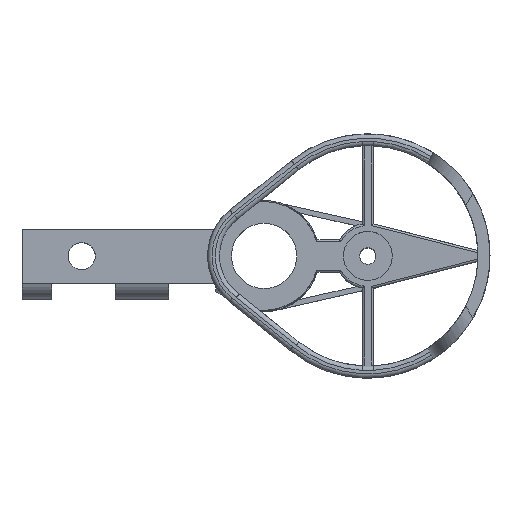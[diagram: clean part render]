
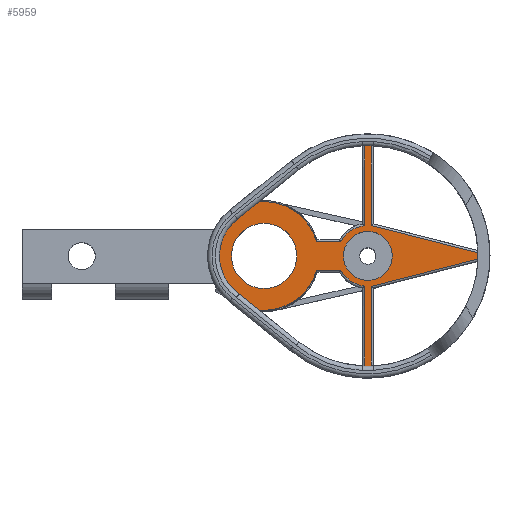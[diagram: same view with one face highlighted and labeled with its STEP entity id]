
A CAD part, top view. The second image highlights one B-rep face of the part: STEP entity #5959.
In plain terms, the highlighted planar face has unit normal (0, 0, 1).
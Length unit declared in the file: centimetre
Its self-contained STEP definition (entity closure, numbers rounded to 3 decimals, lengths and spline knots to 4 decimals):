
#384=VECTOR('',#1390,1.);
#404=VECTOR('',#1461,1.);
#407=VECTOR('',#1471,1.);
#412=VECTOR('',#1481,1.);
#414=VECTOR('',#1490,1.);
#515=VECTOR('',#1870,1.);
#516=VECTOR('',#1876,1.);
#518=VECTOR('',#1880,1.);
#519=VECTOR('',#1888,1.);
#521=VECTOR('',#1893,1.);
#522=VECTOR('',#1894,1.);
#523=VECTOR('',#1895,1.);
#524=VECTOR('',#1896,1.);
#525=VECTOR('',#1901,1.);
#690=LINE('',#8897,#384);
#710=LINE('',#9244,#404);
#713=LINE('',#9255,#407);
#718=LINE('',#9267,#412);
#720=LINE('',#9275,#414);
#821=LINE('',#10394,#515);
#822=LINE('',#10463,#516);
#824=LINE('',#10482,#518);
#825=LINE('',#10539,#519);
#827=LINE('',#10544,#521);
#828=LINE('',#10546,#522);
#829=LINE('',#10547,#523);
#830=LINE('',#10549,#524);
#831=LINE('',#10553,#525);
#934=PLANE('',#2389);
#1101=DIRECTION('',(0.,0.,-1.));
#1102=DIRECTION('',(0.225,0.,0.));
#1390=DIRECTION('',(0.,1.,0.));
#1461=DIRECTION('',(-1.,0.,0.));
#1471=DIRECTION('',(-0.78,-0.626,0.));
#1476=DIRECTION('',(0.,0.,1.));
#1477=DIRECTION('',(0.431,0.,0.));
#1481=DIRECTION('',(0.78,-0.625,0.));
#1485=DIRECTION('',(0.,0.,1.));
#1486=DIRECTION('',(1.015,0.,0.));
#1490=DIRECTION('',(1.,0.01,0.));
#1870=DIRECTION('',(0.,1.,0.));
#1872=DIRECTION('',(0.,0.,-1.));
#1873=DIRECTION('',(-0.16,-0.23,0.));
#1876=DIRECTION('',(-1.,0.,0.));
#1880=DIRECTION('',(0.,1.,0.));
#1884=DIRECTION('',(0.,0.,-1.));
#1885=DIRECTION('',(-0.16,0.23,0.));
#1888=DIRECTION('',(1.,0.,0.));
#1890=DIRECTION('',(0.,0.,1.));
#1891=DIRECTION('',(0.,0.,1.));
#1892=DIRECTION('',(0.3,0.,0.));
#1893=DIRECTION('',(0.,-1.,0.));
#1894=DIRECTION('',(-0.969,-0.247,0.));
#1895=DIRECTION('',(0.969,-0.247,0.));
#1896=DIRECTION('',(0.,-1.,0.));
#1897=DIRECTION('',(0.,0.,-1.));
#1898=DIRECTION('',(0.5,0.,0.));
#1899=DIRECTION('',(0.,0.,1.));
#1900=DIRECTION('',(1.015,0.,0.));
#1901=DIRECTION('',(0.78,-0.625,0.));
#1902=DIRECTION('',(0.,0.,-1.));
#1903=DIRECTION('',(0.5,0.,0.));
#2065=AXIS2_PLACEMENT_3D('',#6419,#1101,#1102);
#2219=AXIS2_PLACEMENT_3D('',#9261,#1476,#1477);
#2222=AXIS2_PLACEMENT_3D('',#9271,#1485,#1486);
#2382=AXIS2_PLACEMENT_3D('',#10411,#1872,#1873);
#2387=AXIS2_PLACEMENT_3D('',#10501,#1884,#1885);
#2389=AXIS2_PLACEMENT_3D('',#10541,#1890,$);
#2390=AXIS2_PLACEMENT_3D('',#10542,#1891,#1892);
#2391=AXIS2_PLACEMENT_3D('',#10550,#1897,#1898);
#2392=AXIS2_PLACEMENT_3D('',#10551,#1899,#1900);
#2393=AXIS2_PLACEMENT_3D('',#10555,#1902,#1903);
#2471=CIRCLE('',#2065,0.225);
#2547=CIRCLE('',#2219,0.4311);
#2548=CIRCLE('',#2222,1.015);
#2629=CIRCLE('',#2382,0.28);
#2631=CIRCLE('',#2387,0.28);
#2632=CIRCLE('',#2390,0.3);
#2633=CIRCLE('',#2391,0.5);
#2634=CIRCLE('',#2392,1.015);
#2635=CIRCLE('',#2393,0.5);
#2722=VERTEX_POINT('',#6420);
#2854=VERTEX_POINT('',#8896);
#2855=VERTEX_POINT('',#8898);
#2882=VERTEX_POINT('',#9243);
#2883=VERTEX_POINT('',#9245);
#2886=VERTEX_POINT('',#9254);
#2887=VERTEX_POINT('',#9256);
#2889=VERTEX_POINT('',#9262);
#2890=VERTEX_POINT('',#9266);
#2891=VERTEX_POINT('',#9270);
#2892=VERTEX_POINT('',#9274);
#3038=VERTEX_POINT('',#10393);
#3039=VERTEX_POINT('',#10395);
#3040=VERTEX_POINT('',#10412);
#3041=VERTEX_POINT('',#10462);
#3043=VERTEX_POINT('',#10481);
#3045=VERTEX_POINT('',#10500);
#3047=VERTEX_POINT('',#10538);
#3048=VERTEX_POINT('',#10543);
#3049=VERTEX_POINT('',#10545);
#3050=VERTEX_POINT('',#10548);
#3051=VERTEX_POINT('',#10552);
#3052=VERTEX_POINT('',#10554);
#3283=EDGE_CURVE('',#2722,#2722,#2471,.T.);
#3476=EDGE_CURVE('',#2855,#2854,#690,.T.);
#3524=EDGE_CURVE('',#2883,#2882,#710,.T.);
#3530=EDGE_CURVE('',#2887,#2886,#713,.T.);
#3533=EDGE_CURVE('',#2886,#2889,#2547,.T.);
#3536=EDGE_CURVE('',#2889,#2890,#718,.T.);
#3538=EDGE_CURVE('',#2890,#2891,#2548,.T.);
#3540=EDGE_CURVE('',#2891,#2892,#720,.T.);
#3772=EDGE_CURVE('',#3038,#3039,#821,.T.);
#3774=EDGE_CURVE('',#3039,#3040,#2629,.T.);
#3777=EDGE_CURVE('',#3040,#3041,#822,.T.);
#3780=EDGE_CURVE('',#3043,#2882,#824,.T.);
#3783=EDGE_CURVE('',#3045,#3043,#2631,.T.);
#3785=EDGE_CURVE('',#3047,#3045,#825,.T.);
#3787=EDGE_CURVE('',#3048,#3048,#2632,.T.);
#3788=EDGE_CURVE('',#3049,#2892,#827,.T.);
#3789=EDGE_CURVE('',#2855,#3049,#828,.T.);
#3790=EDGE_CURVE('',#3050,#2854,#829,.T.);
#3791=EDGE_CURVE('',#2883,#3050,#830,.T.);
#3792=EDGE_CURVE('',#2887,#3047,#2633,.T.);
#3793=EDGE_CURVE('',#3051,#3038,#2634,.T.);
#3794=EDGE_CURVE('',#3052,#3051,#831,.T.);
#3795=EDGE_CURVE('',#3041,#3052,#2635,.T.);
#5004=ORIENTED_EDGE('',*,*,#3787,.F.);
#5005=ORIENTED_EDGE('',*,*,#3533,.T.);
#5006=ORIENTED_EDGE('',*,*,#3536,.T.);
#5007=ORIENTED_EDGE('',*,*,#3538,.T.);
#5008=ORIENTED_EDGE('',*,*,#3540,.T.);
#5009=ORIENTED_EDGE('',*,*,#3788,.F.);
#5010=ORIENTED_EDGE('',*,*,#3789,.F.);
#5011=ORIENTED_EDGE('',*,*,#3476,.T.);
#5012=ORIENTED_EDGE('',*,*,#3790,.F.);
#5013=ORIENTED_EDGE('',*,*,#3791,.F.);
#5014=ORIENTED_EDGE('',*,*,#3524,.T.);
#5015=ORIENTED_EDGE('',*,*,#3780,.F.);
#5016=ORIENTED_EDGE('',*,*,#3783,.F.);
#5017=ORIENTED_EDGE('',*,*,#3785,.F.);
#5018=ORIENTED_EDGE('',*,*,#3792,.F.);
#5019=ORIENTED_EDGE('',*,*,#3530,.T.);
#5020=ORIENTED_EDGE('',*,*,#3283,.T.);
#5021=ORIENTED_EDGE('',*,*,#3793,.F.);
#5022=ORIENTED_EDGE('',*,*,#3794,.F.);
#5023=ORIENTED_EDGE('',*,*,#3795,.F.);
#5024=ORIENTED_EDGE('',*,*,#3777,.F.);
#5025=ORIENTED_EDGE('',*,*,#3774,.F.);
#5026=ORIENTED_EDGE('',*,*,#3772,.F.);
#5433=EDGE_LOOP('',(#5004));
#5434=EDGE_LOOP('',(#5005,#5006,#5007,#5008,#5009,#5010,#5011,#5012,#5013,
#5014,#5015,#5016,#5017,#5018,#5019));
#5435=EDGE_LOOP('',(#5020));
#5436=EDGE_LOOP('',(#5021,#5022,#5023,#5024,#5025,#5026));
#5710=FACE_BOUND('',#5433,.T.);
#5711=FACE_BOUND('',#5434,.T.);
#5712=FACE_BOUND('',#5435,.T.);
#5713=FACE_BOUND('',#5436,.T.);
#5959=ADVANCED_FACE('',(#5710,#5711,#5712,#5713),#934,.T.);
#6419=CARTESIAN_POINT('',(0.,0.,
0.1));
#6420=CARTESIAN_POINT('',(0.225,0.,0.1));
#8896=CARTESIAN_POINT('',(1.0138,0.0294,0.1));
#8897=CARTESIAN_POINT('',(1.0138,0.0003,0.1));
#8898=CARTESIAN_POINT('',(1.0138,-0.0294,0.1));
#9243=CARTESIAN_POINT('',(-0.03,1.0138,0.1));
#9244=CARTESIAN_POINT('',(-0.0902,1.0138,0.1));
#9245=CARTESIAN_POINT('',(0.03,1.0138,0.1));
#9254=CARTESIAN_POINT('',(-1.1988,0.3397,0.1));
#9255=CARTESIAN_POINT('',(-0.8308,0.6348,0.1));
#9256=CARTESIAN_POINT('',(-1.0016,0.4978,0.1));
#9261=CARTESIAN_POINT('',(-0.9346,-0.001,0.1));
#9262=CARTESIAN_POINT('',(-1.1855,-0.3516,0.1));
#9266=CARTESIAN_POINT('',(-0.6342,-0.7932,0.1));
#9267=CARTESIAN_POINT('',(-0.8275,-0.6384,0.1));
#9270=CARTESIAN_POINT('',(-0.0496,-1.0148,0.1));
#9271=CARTESIAN_POINT('',(0.0004,-0.001,0.1));
#9274=CARTESIAN_POINT('',(0.03,-1.014,0.1));
#9275=CARTESIAN_POINT('',(-0.0849,-1.0152,0.1));
#10393=CARTESIAN_POINT('',(-0.03,-1.0146,0.1));
#10394=CARTESIAN_POINT('',(-0.03,-0.3271,0.1));
#10395=CARTESIAN_POINT('',(-0.03,-0.2784,0.1));
#10411=CARTESIAN_POINT('',(0.,0.,
0.1));
#10412=CARTESIAN_POINT('',(-0.248,-0.13,0.1));
#10462=CARTESIAN_POINT('',(-0.4722,-0.13,0.1));
#10463=CARTESIAN_POINT('',(-0.2746,-0.13,0.1));
#10481=CARTESIAN_POINT('',(-0.03,0.2784,0.1));
#10482=CARTESIAN_POINT('',(-0.03,0.3277,0.1));
#10500=CARTESIAN_POINT('',(-0.248,0.13,0.1));
#10501=CARTESIAN_POINT('',(0.,0.,
0.1));
#10538=CARTESIAN_POINT('',(-0.4722,0.13,0.1));
#10539=CARTESIAN_POINT('',(-0.2746,0.13,0.1));
#10541=CARTESIAN_POINT('',(-0.1804,0.0006,0.1));
#10542=CARTESIAN_POINT('',(-0.955,0.,0.1));
#10543=CARTESIAN_POINT('',(-0.655,0.,0.1));
#10544=CARTESIAN_POINT('',(0.03,-0.3271,0.1));
#10545=CARTESIAN_POINT('',(0.03,-0.2803,0.1));
#10546=CARTESIAN_POINT('',(0.2133,-0.2335,0.1));
#10547=CARTESIAN_POINT('',(0.2132,0.2335,0.1));
#10548=CARTESIAN_POINT('',(0.03,0.2803,0.1));
#10549=CARTESIAN_POINT('',(0.03,0.3277,0.1));
#10550=CARTESIAN_POINT('',(-0.955,0.,0.1));
#10551=CARTESIAN_POINT('',(0.,0.,0.1));
#10552=CARTESIAN_POINT('',(-0.6346,-0.7922,0.1));
#10553=CARTESIAN_POINT('',(-0.7815,-0.6745,0.1));
#10554=CARTESIAN_POINT('',(-1.0021,-0.4978,0.1));
#10555=CARTESIAN_POINT('',(-0.955,0.,0.1));
